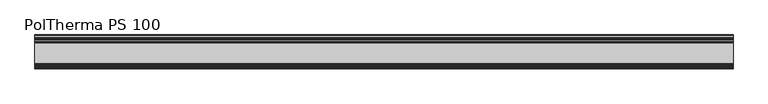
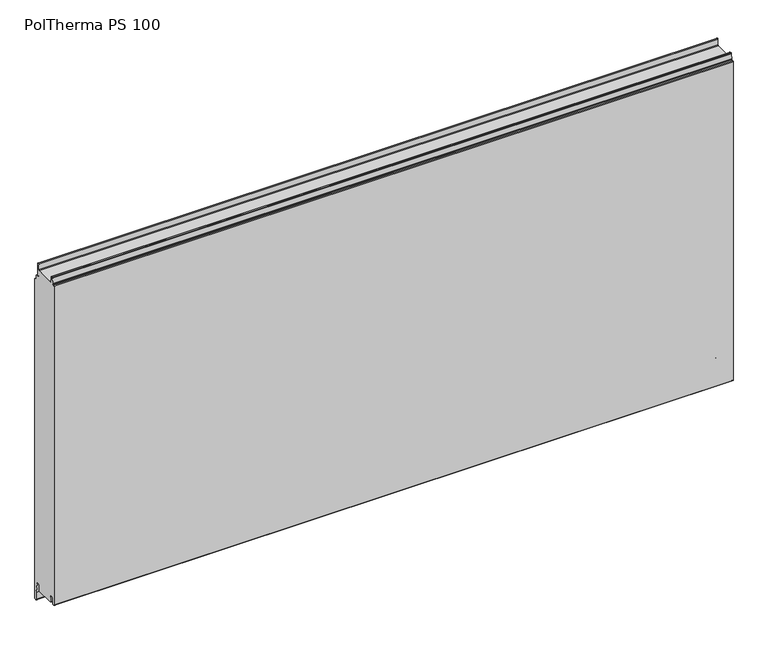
"""IFC4 building model written with IfcOpenShell, lengths in millimetres: plate geometry, Europanels_Poltherma PS_Hz : PolTherma PS 100."""

from ifc_helpers import new_model, si_unit, frame, origin, place, context, project, spatial, polyline, circle_curve, source, transform, mapped, element, save
from ifc_brep_helpers import plane_surface, cylinder_surface, revolved_surface, advanced_brep


def poltherma_ps_100_4dee80a4(model_context):
    return source(origin(), model_context, "Body", "AdvancedBrep", [
        advanced_brep(
        [(1025.0, 50.0, 3.6911192), (1025.0, 50.0, 1022.2385671), (1025.0, 48.4255288, 1024.3101044), (1025.0, 43.7941649, 1025.5968219), (1025.0, 42.0, 1027.9574109), (1025.0, 42.0, 1038.5271022), (1025.0, 39.65, 1040.8771022), (1025.0, 36.65, 1040.8771022), (1025.0, 34.0, 1043.5271022), (1025.0, 34.0, 1082.1367317), (1025.0, 31.7657157, 1084.2363881), (1025.0, 29.6717693, 1082.2998467), (1025.0, 28.9864093, 1065.781124), (1025.0, 26.3385145, 1063.2367317), (1025.0, -33.7011224, 1063.2367317), (1025.0, -34.4432694, 1079.8261148), (1025.0, -36.4412711, 1081.7367317), (1025.0, -39.1905122, 1081.7367317), (1025.0, -41.1863232, 1079.8661089), (1025.0, -42.2402866, 1063.6073545), (1025.0, -44.2360976, 1061.7367317), (1025.0, -47.9973085, 1061.7367317), (1025.0, -49.9973085, 1059.7367317), (1025.0, -50.0, 41.7345224), (1025.0, -47.9973085, 39.7345224), (1025.0, -45.27015, 39.7345224), (1025.0, -43.2805625, 41.5307044), (1025.0, -42.306057, 59.5434261), (1025.0, -39.3216758, 62.2376991), (1025.0, -36.3730069, 62.2376991), (1025.0, -33.3900718, 59.5572268), (1025.0, -32.337447, 41.2981312), (1025.0, -30.5974015, 39.7345224), (1025.0, 25.3314364, 38.2345224), (1025.0, 27.6798185, 40.4973354), (1025.0, 28.3397973, 58.2738665), (1025.0, 30.9832499, 60.7376991), (1025.0, 34.3675437, 60.7376991), (1025.0, 36.9690493, 58.5923462), (1025.0, 43.3, 25.9556669), (1025.0, 43.3, 3.2773261), (1025.0, 45.8152999, 1.1585869), (1025.0, 48.2152999, 1.57238), (-1025.0, 50.0, 3.6911192), (-1025.0, 48.2152999, 1.57238), (-1025.0, 45.8152999, 1.1585869), (-1025.0, 43.3, 3.2773261), (-1025.0, 43.3, 25.9556669), (-1025.0, 36.9690493, 58.5923462), (-1025.0, 34.3675437, 60.7376991), (-1025.0, 30.9832499, 60.7376991), (-1025.0, 28.3397973, 58.2738665), (-1025.0, 27.6798185, 40.4973354), (-1025.0, 25.3314364, 38.2345224), (-1025.0, -30.5974015, 39.7345224), (-1025.0, -32.337447, 41.2981312), (-1025.0, -33.3900718, 59.5572268), (-1025.0, -36.3730069, 62.2376991), (-1025.0, -39.3216758, 62.2376991), (-1025.0, -42.306057, 59.5434261), (-1025.0, -43.2805625, 41.5307044), (-1025.0, -45.27015, 39.7345224), (-1025.0, -47.9973085, 39.7345224), (-1025.0, -49.9973085, 41.7345224), (-1025.0, -50.0, 1059.7367317), (-1025.0, -47.9973085, 1061.7367317), (-1025.0, -44.2360976, 1061.7367317), (-1025.0, -42.2402866, 1063.6073545), (-1025.0, -41.1863232, 1079.8661089), (-1025.0, -39.1905122, 1081.7367317), (-1025.0, -36.4412711, 1081.7367317), (-1025.0, -34.4432694, 1079.8261148), (-1025.0, -33.7011224, 1063.2367317), (-1025.0, 26.3385145, 1063.2367317), (-1025.0, 28.9864093, 1065.781124), (-1025.0, 29.6452624, 1082.300507), (-1025.0, 31.7657157, 1084.2363881), (-1025.0, 33.9748677, 1082.1374188), (-1025.0, 34.0, 1043.5271022), (-1025.0, 36.65, 1040.8771022), (-1025.0, 39.65, 1040.8771022), (-1025.0, 42.0, 1038.5271022), (-1025.0, 42.0, 1027.9574109), (-1025.0, 43.7941649, 1025.5968219), (-1025.0, 48.4255288, 1024.3101044), (-1025.0, 50.0, 1022.2385671)],
        [
            (0, 1),
            (1, 2, circle_curve(frame((1025.0, 47.85, 1022.2385671), z_axis=(1.0, 0.0, 0.0), x_axis=(0.0, 1.0, 0.0)), 2.15)),
            (2, 3),
            (3, 4, circle_curve(frame((1025.0, 44.45, 1027.9574109), z_axis=(-1.0, 0.0, 0.0), x_axis=(0.0, 1.0, 0.0)), 2.45)),
            (4, 5),
            (5, 6, circle_curve(frame((1025.0, 39.65, 1038.5271022), z_axis=(1.0, 0.0, 0.0), x_axis=(0.0, 1.0, 0.0)), 2.35)),
            (6, 7),
            (7, 8, circle_curve(frame((1025.0, 36.65, 1043.5271022), z_axis=(-1.0, 0.0, 0.0), x_axis=(0.0, 1.0, 0.0)), 2.65)),
            (8, 9),
            (9, 10, circle_curve(frame((1025.0, 31.8731507, 1082.1374188), z_axis=(1.0, 0.0, 0.0), x_axis=(0.0, 1.0, 0.0)), 2.101717)),
            (10, 11, circle_curve(frame((1025.0, 31.7657157, 1082.1360446), z_axis=(1.0, 0.0, 0.0), x_axis=(0.0, 1.0, 0.0)), 2.1003435)),
            (11, 12),
            (12, 13, circle_curve(frame((1025.0, 26.3385145, 1065.8867317), z_axis=(-1.0, 0.0, 0.0), x_axis=(0.0, 1.0, 0.0)), 2.65)),
            (13, 14),
            (14, 15),
            (15, 16, circle_curve(frame((1025.0, -36.4412711, 1079.7367317), z_axis=(1.0, 0.0, 0.0), x_axis=(0.0, 1.0, 0.0)), 2.0)),
            (16, 17),
            (17, 18, circle_curve(frame((1025.0, -39.1905122, 1079.7367317), z_axis=(1.0, 0.0, 0.0), x_axis=(0.0, 1.0, 0.0)), 2.0)),
            (18, 19),
            (19, 20, circle_curve(frame((1025.0, -44.2360976, 1063.7367317), z_axis=(-1.0, 0.0, 0.0), x_axis=(0.0, 1.0, 0.0)), 2.0)),
            (20, 21),
            (21, 22, circle_curve(frame((1025.0, -47.9973085, 1059.7367317), z_axis=(1.0, 0.0, 0.0), x_axis=(0.0, 1.0, 0.0)), 2.0)),
            (22, 23),
            (23, 24, circle_curve(frame((1025.0, -47.9973085, 41.7345224), z_axis=(1.0, 0.0, 0.0), x_axis=(0.0, 1.0, 0.0)), 2.0)),
            (24, 25),
            (25, 26, circle_curve(frame((1025.0, -45.27015, 41.7345224), z_axis=(1.0, 0.0, 0.0), x_axis=(0.0, 1.0, 0.0)), 2.0)),
            (26, 27),
            (27, 28, circle_curve(frame((1025.0, -39.3216758, 59.2376991), z_axis=(-1.0, 0.0, 0.0), x_axis=(0.0, 1.0, 0.0)), 3.0)),
            (28, 29),
            (29, 30, circle_curve(frame((1025.0, -36.3730069, 59.2376991), z_axis=(-1.0, 0.0, 0.0), x_axis=(0.0, 1.0, 0.0)), 3.0)),
            (30, 31),
            (31, 32, circle_curve(frame((1025.0, -30.5974015, 41.4845224), z_axis=(1.0, 0.0, 0.0), x_axis=(0.0, 1.0, 0.0)), 1.75)),
            (32, 33),
            (33, 34, circle_curve(frame((1025.0, 25.3314364, 40.5845224), z_axis=(1.0, 0.0, 0.0), x_axis=(0.0, 1.0, 0.0)), 2.35)),
            (34, 35),
            (35, 36, circle_curve(frame((1025.0, 30.9832499, 58.0876991), z_axis=(-1.0, 0.0, 0.0), x_axis=(0.0, 1.0, 0.0)), 2.65)),
            (36, 37),
            (37, 38, circle_curve(frame((1025.0, 34.3675437, 58.0876991), z_axis=(-1.0, 0.0, 0.0), x_axis=(0.0, 1.0, 0.0)), 2.65)),
            (38, 39),
            (39, 40),
            (40, 41, circle_curve(frame((1025.0, 45.45, 3.2773261), z_axis=(1.0, 0.0, 0.0), x_axis=(0.0, 1.0, 0.0)), 2.15)),
            (41, 42),
            (42, 0, circle_curve(frame((1025.0, 47.85, 3.6911192), z_axis=(1.0, 0.0, 0.0), x_axis=(0.0, 1.0, 0.0)), 2.15)),
            (43, 44, circle_curve(frame((-1025.0, 47.85, 3.6911192), z_axis=(-1.0, 0.0, 0.0), x_axis=(0.0, 1.0, 0.0)), 2.15)),
            (44, 45),
            (45, 46, circle_curve(frame((-1025.0, 45.45, 3.2773261), z_axis=(-1.0, 0.0, 0.0), x_axis=(0.0, 1.0, 0.0)), 2.15)),
            (46, 47),
            (47, 48),
            (48, 49, circle_curve(frame((-1025.0, 34.3675437, 58.0876991), z_axis=(1.0, 0.0, 0.0), x_axis=(0.0, 1.0, 0.0)), 2.65)),
            (49, 50),
            (50, 51, circle_curve(frame((-1025.0, 30.9832499, 58.0876991), z_axis=(1.0, 0.0, 0.0), x_axis=(0.0, 1.0, 0.0)), 2.65)),
            (51, 52),
            (52, 53, circle_curve(frame((-1025.0, 25.3314364, 40.5845224), z_axis=(-1.0, 0.0, 0.0), x_axis=(0.0, 1.0, 0.0)), 2.35)),
            (53, 54),
            (54, 55, circle_curve(frame((-1025.0, -30.5974015, 41.4845224), z_axis=(-1.0, 0.0, 0.0), x_axis=(0.0, 1.0, 0.0)), 1.75)),
            (55, 56),
            (56, 57, circle_curve(frame((-1025.0, -36.3730069, 59.2376991), z_axis=(1.0, 0.0, 0.0), x_axis=(0.0, 1.0, 0.0)), 3.0)),
            (57, 58),
            (58, 59, circle_curve(frame((-1025.0, -39.3216758, 59.2376991), z_axis=(1.0, 0.0, 0.0), x_axis=(0.0, 1.0, 0.0)), 3.0)),
            (59, 60),
            (60, 61, circle_curve(frame((-1025.0, -45.27015, 41.7345224), z_axis=(-1.0, 0.0, 0.0), x_axis=(0.0, 1.0, 0.0)), 2.0)),
            (61, 62),
            (62, 63, circle_curve(frame((-1025.0, -47.9973085, 41.7345224), z_axis=(-1.0, 0.0, 0.0), x_axis=(0.0, 1.0, 0.0)), 2.0)),
            (63, 64),
            (64, 65, circle_curve(frame((-1025.0, -47.9973085, 1059.7367317), z_axis=(-1.0, 0.0, 0.0), x_axis=(0.0, 1.0, 0.0)), 2.0)),
            (65, 66),
            (66, 67, circle_curve(frame((-1025.0, -44.2360976, 1063.7367317), z_axis=(1.0, 0.0, 0.0), x_axis=(0.0, 1.0, 0.0)), 2.0)),
            (67, 68),
            (68, 69, circle_curve(frame((-1025.0, -39.1905122, 1079.7367317), z_axis=(-1.0, 0.0, 0.0), x_axis=(0.0, 1.0, 0.0)), 2.0)),
            (69, 70),
            (70, 71, circle_curve(frame((-1025.0, -36.4412711, 1079.7367317), z_axis=(-1.0, 0.0, 0.0), x_axis=(0.0, 1.0, 0.0)), 2.0)),
            (71, 72),
            (72, 73),
            (73, 74, circle_curve(frame((-1025.0, 26.3385145, 1065.8867317), z_axis=(1.0, 0.0, 0.0), x_axis=(0.0, 1.0, 0.0)), 2.65)),
            (74, 75),
            (75, 76, circle_curve(frame((-1025.0, 31.7657157, 1082.1360446), z_axis=(-1.0, 0.0, 0.0), x_axis=(0.0, 1.0, 0.0)), 2.1003435)),
            (76, 77, circle_curve(frame((-1025.0, 31.8731507, 1082.1374188), z_axis=(-1.0, 0.0, 0.0), x_axis=(0.0, 1.0, 0.0)), 2.101717)),
            (77, 78),
            (78, 79, circle_curve(frame((-1025.0, 36.65, 1043.5271022), z_axis=(1.0, 0.0, 0.0), x_axis=(0.0, 1.0, 0.0)), 2.65)),
            (79, 80),
            (80, 81, circle_curve(frame((-1025.0, 39.65, 1038.5271022), z_axis=(-1.0, 0.0, 0.0), x_axis=(0.0, 1.0, 0.0)), 2.35)),
            (81, 82),
            (82, 83, circle_curve(frame((-1025.0, 44.45, 1027.9574109), z_axis=(1.0, 0.0, 0.0), x_axis=(0.0, 1.0, 0.0)), 2.45)),
            (83, 84),
            (84, 85, circle_curve(frame((-1025.0, 47.85, 1022.2385671), z_axis=(-1.0, 0.0, 0.0), x_axis=(0.0, 1.0, 0.0)), 2.15)),
            (85, 43),
            (0, 43),
            (85, 1),
            (84, 2),
            (83, 3),
            (82, 4),
            (81, 5),
            (80, 6),
            (79, 7),
            (78, 8),
            (77, 9),
            (76, 10),
            (75, 11),
            (74, 12),
            (73, 13),
            (72, 14),
            (71, 15),
            (70, 16),
            (69, 17),
            (68, 18),
            (67, 19),
            (66, 20),
            (65, 21),
            (64, 22),
            (63, 23),
            (62, 24),
            (61, 25),
            (60, 26),
            (59, 27),
            (58, 28),
            (57, 29),
            (56, 30),
            (55, 31),
            (54, 32),
            (53, 33),
            (52, 34),
            (51, 35),
            (50, 36),
            (49, 37),
            (48, 38),
            (47, 39),
            (46, 40),
            (45, 41),
            (44, 42),
        ],
        [
            plane_surface(frame((1025.0, 50.0, 1022.2385671), z_axis=(1.0, 0.0, 0.0), x_axis=(0.0, 0.0, 1.0))),
            plane_surface(frame((-1025.0, 50.0, 1022.2385671), z_axis=(-1.0, 0.0, 0.0), x_axis=(0.0, 0.0, -1.0))),
            plane_surface(frame((1025.0, 50.0, 3.6911192), z_axis=(0.0, 1.0, 0.0), x_axis=(-1.0, 0.0, 0.0))),
            cylinder_surface(frame((-1025.0, 47.85, 1022.2385671), z_axis=(1.0, 0.0, 0.0), x_axis=(0.0, 1.0, 0.0)), 2.15),
            plane_surface(frame((1025.0, 48.4255288, 1024.3101044), z_axis=(0.0, 0.2676878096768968, 0.9635057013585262), x_axis=(-1.0, 0.0, 0.0))),
            revolved_surface(polyline([(-1025.0, 46.900000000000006, 1027.9574109), (1025.0, 46.900000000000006, 1027.9574109)]), (-1025.0, 44.45, 1027.9574109), (-1.0, 0.0, 0.0)),
            plane_surface(frame((1025.0, 42.0, 1027.9574109), z_axis=(0.0, 1.0, 0.0), x_axis=(-1.0, 0.0, 0.0))),
            cylinder_surface(frame((-1025.0, 39.65, 1038.5271022), z_axis=(1.0, 0.0, 0.0), x_axis=(0.0, 1.0, 0.0)), 2.35),
            plane_surface(frame((1025.0, 39.65, 1040.8771022), z_axis=(0.0, 0.0, 1.0), x_axis=(-1.0, 0.0, 0.0))),
            revolved_surface(polyline([(-1025.0, 39.3, 1043.5271022), (1025.0, 39.3, 1043.5271022)]), (-1025.0, 36.65, 1043.5271022), (-1.0, 0.0, 0.0)),
            plane_surface(frame((1025.0, 34.0, 1043.5271022), z_axis=(0.0, 1.0, 0.0), x_axis=(-1.0, 0.0, 0.0))),
            cylinder_surface(frame((-1025.0, 31.8731507, 1082.1374188), z_axis=(1.0, 0.0, 0.0), x_axis=(0.0, 1.0, 0.0)), 2.101717),
            cylinder_surface(frame((-1025.0, 31.7657157, 1082.1360446), z_axis=(1.0, 0.0, 0.0), x_axis=(0.0, 1.0, 0.0)), 2.1003435),
            plane_surface(frame((1025.0, 29.6452624, 1082.300507), z_axis=(0.0, -0.9992055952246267, 0.03985195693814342), x_axis=(-1.0, 0.0, 0.0))),
            revolved_surface(polyline([(-1025.0, 28.988514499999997, 1065.8867317), (1025.0, 28.988514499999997, 1065.8867317)]), (-1025.0, 26.3385145, 1065.8867317), (-1.0, 0.0, 0.0)),
            plane_surface(frame((1025.0, 26.3385145, 1063.2367317), z_axis=(0.0, 0.0, 1.0), x_axis=(-1.0, 0.0, 0.0))),
            plane_surface(frame((1025.0, -33.7011224, 1063.2367317), z_axis=(0.0, 0.9990008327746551, 0.044691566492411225), x_axis=(-1.0, 0.0, 0.0))),
            cylinder_surface(frame((-1025.0, -36.4412711, 1079.7367317), z_axis=(1.0, 0.0, 0.0), x_axis=(0.0, 1.0, 0.0)), 2.0),
            plane_surface(frame((1025.0, -36.4412711, 1081.7367317), z_axis=(0.0, 0.0, 1.0), x_axis=(-1.0, 0.0, 0.0))),
            cylinder_surface(frame((-1025.0, -39.1905122, 1079.7367317), z_axis=(1.0, 0.0, 0.0), x_axis=(0.0, 1.0, 0.0)), 2.0),
            plane_surface(frame((1025.0, -41.1863232, 1079.8661089), z_axis=(0.0, -0.9979054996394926, 0.06468859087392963), x_axis=(-1.0, 0.0, 0.0))),
            revolved_surface(polyline([(-1025.0, -42.2360976, 1063.7367317), (1025.0, -42.2360976, 1063.7367317)]), (-1025.0, -44.2360976, 1063.7367317), (-1.0, 0.0, 0.0)),
            plane_surface(frame((1025.0, -44.2360976, 1061.7367317), z_axis=(0.0, 0.0, 1.0), x_axis=(-1.0, 0.0, 0.0))),
            cylinder_surface(frame((-1025.0, -47.9973085, 1059.7367317), z_axis=(1.0, 0.0, 0.0), x_axis=(0.0, 1.0, 0.0)), 2.0),
            plane_surface(frame((1025.0, -50.0, 1059.7367317), z_axis=(0.0, -1.0, 0.0), x_axis=(-1.0, 0.0, 0.0))),
            cylinder_surface(frame((-1025.0, -47.9973085, 41.7345224), z_axis=(1.0, 0.0, 0.0), x_axis=(0.0, 1.0, 0.0)), 2.0),
            plane_surface(frame((1025.0, -47.9973085, 39.7345224), z_axis=(0.0, 0.0, -1.0), x_axis=(-1.0, 0.0, 0.0))),
            cylinder_surface(frame((-1025.0, -45.27015, 41.7345224), z_axis=(1.0, 0.0, 0.0), x_axis=(0.0, 1.0, 0.0)), 2.0),
            plane_surface(frame((1025.0, -43.2805625, 41.5307044), z_axis=(0.0, 0.9985397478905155, -0.054021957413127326), x_axis=(-1.0, 0.0, 0.0))),
            revolved_surface(polyline([(-1025.0, -36.3216758, 59.2376991), (1025.0, -36.3216758, 59.2376991)]), (-1025.0, -39.3216758, 59.2376991), (-1.0, 0.0, 0.0)),
            plane_surface(frame((1025.0, -39.3216758, 62.2376991), z_axis=(0.0, 0.0, -1.0), x_axis=(-1.0, 0.0, 0.0))),
            revolved_surface(polyline([(-1025.0, -33.3730069, 59.2376991), (1025.0, -33.3730069, 59.2376991)]), (-1025.0, -36.3730069, 59.2376991), (-1.0, 0.0, 0.0)),
            plane_surface(frame((1025.0, -33.3900718, 59.5572268), z_axis=(0.0, -0.9983424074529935, -0.05755377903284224), x_axis=(-1.0, 0.0, 0.0))),
            cylinder_surface(frame((-1025.0, -30.5974015, 41.4845224), z_axis=(1.0, 0.0, 0.0), x_axis=(0.0, 1.0, 0.0)), 1.75),
            plane_surface(frame((1025.0, -30.5974015, 39.7345224), z_axis=(0.0, -0.02681015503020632, -0.9996405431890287), x_axis=(-1.0, 0.0, 0.0))),
            cylinder_surface(frame((-1025.0, 25.3314364, 40.5845224), z_axis=(1.0, 0.0, 0.0), x_axis=(0.0, 1.0, 0.0)), 2.35),
            plane_surface(frame((1025.0, 27.6798185, 40.4973354), z_axis=(0.0, 0.9993115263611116, -0.037100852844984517), x_axis=(-1.0, 0.0, 0.0))),
            revolved_surface(polyline([(-1025.0, 33.6332499, 58.0876991), (1025.0, 33.6332499, 58.0876991)]), (-1025.0, 30.9832499, 58.0876991), (-1.0, 0.0, 0.0)),
            plane_surface(frame((1025.0, 30.9832499, 60.7376991), z_axis=(0.0, 2.141538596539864e-11, -1.0), x_axis=(-1.0, 0.0, 0.0))),
            revolved_surface(polyline([(-1025.0, 37.0175437, 58.0876991), (1025.0, 37.0175437, 58.0876991)]), (-1025.0, 34.3675437, 58.0876991), (-1.0, 0.0, 0.0)),
            plane_surface(frame((1025.0, 36.9690493, 58.5923462), z_axis=(0.0, -0.9817002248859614, -0.1904328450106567), x_axis=(-1.0, 0.0, 0.0))),
            plane_surface(frame((1025.0, 43.3, 25.9556669), z_axis=(0.0, -1.0, 0.0), x_axis=(-1.0, 0.0, 0.0))),
            cylinder_surface(frame((-1025.0, 45.45, 3.2773261), z_axis=(1.0, 0.0, 0.0), x_axis=(0.0, 1.0, 0.0)), 2.15),
            plane_surface(frame((1025.0, 45.8152999, 1.1585869), z_axis=(0.0, 0.16990691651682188, -0.985460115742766), x_axis=(-1.0, 0.0, 0.0))),
            cylinder_surface(frame((-1025.0, 47.85, 3.6911192), z_axis=(1.0, 0.0, 0.0), x_axis=(0.0, 1.0, 0.0)), 2.15),
        ],
        [
            (0, [[1, 2, 3, 4, 5, 6, 7, 8, 9, 10, 11, 12, 13, 14, 15, 16, 17, 18, 19, 20, 21, 22, 23, 24, 25, 26, 27, 28, 29, 30, 31, 32, 33, 34, 35, 36, 37, 38, 39, 40, 41, 42, 43]]),
            (1, [[44, 45, 46, 47, 48, 49, 50, 51, 52, 53, 54, 55, 56, 57, 58, 59, 60, 61, 62, 63, 64, 65, 66, 67, 68, 69, 70, 71, 72, 73, 74, 75, 76, 77, 78, 79, 80, 81, 82, 83, 84, 85, 86]]),
            (2, [[-1, 87, -86, 88]]),
            (3, [[-2, -88, -85, 89]]),
            (4, [[-3, -89, -84, 90]]),
            (5, [[-4, -90, -83, 91]]),
            (6, [[-5, -91, -82, 92]]),
            (7, [[-6, -92, -81, 93]]),
            (8, [[-7, -93, -80, 94]]),
            (9, [[-8, -94, -79, 95]]),
            (10, [[-9, -95, -78, 96]]),
            (11, [[-10, -96, -77, 97]]),
            (12, [[-11, -97, -76, 98]]),
            (13, [[-12, -98, -75, 99]]),
            (14, [[-13, -99, -74, 100]]),
            (15, [[-14, -100, -73, 101]]),
            (16, [[-15, -101, -72, 102]]),
            (17, [[-16, -102, -71, 103]]),
            (18, [[-17, -103, -70, 104]]),
            (19, [[-18, -104, -69, 105]]),
            (20, [[-19, -105, -68, 106]]),
            (21, [[-20, -106, -67, 107]]),
            (22, [[-21, -107, -66, 108]]),
            (23, [[-22, -108, -65, 109]]),
            (24, [[-23, -109, -64, 110]]),
            (25, [[-24, -110, -63, 111]]),
            (26, [[-25, -111, -62, 112]]),
            (27, [[-26, -112, -61, 113]]),
            (28, [[-27, -113, -60, 114]]),
            (29, [[-28, -114, -59, 115]]),
            (30, [[-29, -115, -58, 116]]),
            (31, [[-30, -116, -57, 117]]),
            (32, [[-31, -117, -56, 118]]),
            (33, [[-32, -118, -55, 119]]),
            (34, [[-33, -119, -54, 120]]),
            (35, [[-34, -120, -53, 121]]),
            (36, [[-35, -121, -52, 122]]),
            (37, [[-36, -122, -51, 123]]),
            (38, [[-37, -123, -50, 124]]),
            (39, [[-38, -124, -49, 125]]),
            (40, [[-39, -125, -48, 126]]),
            (41, [[-40, -126, -47, 127]]),
            (42, [[-41, -127, -46, 128]]),
            (43, [[-42, -128, -45, 129]]),
            (44, [[-43, -129, -44, -87]]),
        ],
    ),
    ])


if __name__ == "__main__":
    model = new_model("IFC4")
    model_context = context("Model", 3, world=origin())
    ifc_project = project(units=[si_unit("LENGTHUNIT", "METRE", prefix="MILLI")], contexts=[model_context])
    site = spatial("IfcSite", under=ifc_project)
    building = spatial("IfcBuilding", under=site)
    placement = place(None, origin())
    poltherma_ps_100_shape = poltherma_ps_100_4dee80a4(model_context)
    element("IfcPlate", 1, ObjectType="Europanels_Poltherma PS_Hz : PolTherma PS 100", at=placement, inside=building, context=model_context, shape_type="MappedRepresentation", body=[
        mapped(poltherma_ps_100_shape, transform((0.0, 0.0, 0.0), x_axis=(1.0, 0.0, 0.0), y_axis=(0.0, 1.0, 0.0), z_axis=(0.0, 0.0, 1.0))),
    ])
    save(model, "model.ifc")
